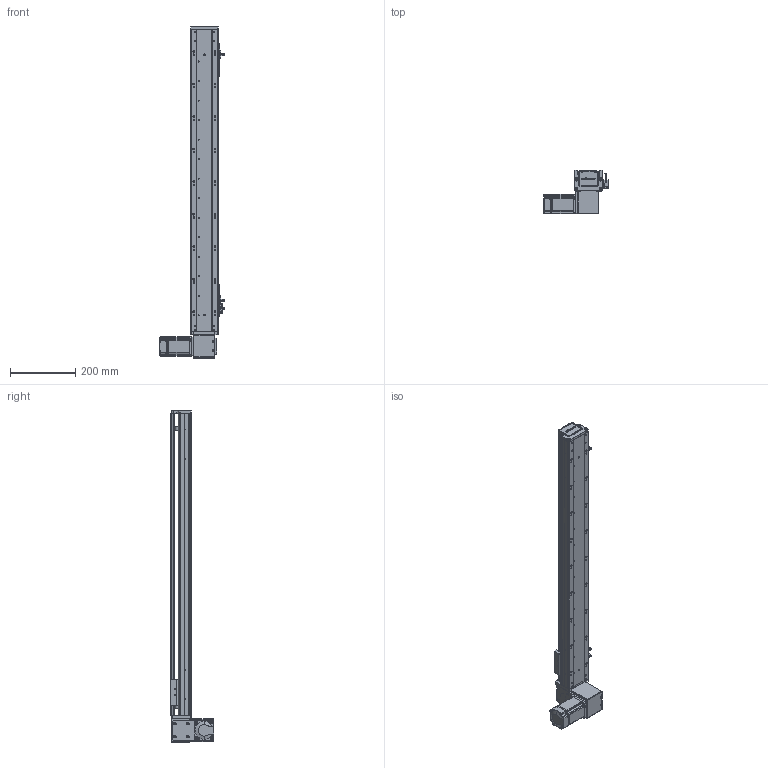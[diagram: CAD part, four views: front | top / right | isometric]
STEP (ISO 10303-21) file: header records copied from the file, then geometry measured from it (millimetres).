
FILE_DESCRIPTION (( 'STEP AP203' ), '1' );
FILE_NAME ('RY80-T-300-DL.SLDASM_750.step', '2021-03-01T01:38:11', ( '盈信电脑' ), ( '东莞市道滘镇水果街19号' ), 'SwSTEP 2.0', 'SolidWorks 2012', '' );
FILE_SCHEMA (( 'CONFIG_CONTROL_DESIGN' ));
Length unit declared in the file: millimetre
Products named in the file (19): RY80-T-上下折同步轮盖板; RY100-T粣創揤踡裔; RY80-T-300-DL.SLDASM_750; RY80-T-M4蹟翐3; RY80-T肮祭謫狟殏俋欶; 滅袉蝶18-10; 1; RY80-T翋肮祭謫裔啣; RY80-T肮祭湍揤輸2; RY80-T萇儂假蚾啣; RY80-T肮祭湍揤輸1; RY80-T-翋肮祭謫釱; 覜茼ん672; RY80俋离覜茼え; RY80-T肮祭謫臏賑輸; RY80-T-300-DL倰第奻裔啣_750; RY80-T綴裔啣; 672嫖萇羲壽假蚾釱; RY80-T-300-DL倰第菁釱_750
Assembly tree (24 placements, depth 2):
  RY80-T-300-DL.SLDASM_750
    RY80-T-300-DL倰第菁釱_750
    RY80-T肮祭謫臏賑輸
    RY80-T-300-DL倰第奻裔啣_750
    RY80-T綴裔啣
    672嫖萇羲壽假蚾釱  x2
    覜茼ん672  x3
    RY80俋离覜茼え
    RY80-T-翋肮祭謫釱
    RY80-T肮祭湍揤輸1
    RY80-T肮祭湍揤輸2
    RY80-T萇儂假蚾啣
    RY80-T翋肮祭謫裔啣  x2
    滅袉蝶18-10  x2
    1
    RY80-T肮祭謫狟殏俋欶
    RY80-T-M4蹟翐3  x2
    RY80-T-上下折同步轮盖板
    RY100-T粣創揤踡裔
Bounding box: 198.7 x 134.5 x 1020 mm (x, y, z)
Volume: 1858821.3 mm3; surface area: 779019.8 mm2
Topology: 24 solids, 24 shells, 2558 faces, 7068 edges, 4589 vertices
Faces by surface type: plane 1357, cylinder 994, cone 151, bspline 56
Entity records: 81175 total; most frequent: CARTESIAN_POINT 20210, ORIENTED_EDGE 12580, DIRECTION 11728, EDGE_CURVE 6290, VERTEX_POINT 4130, AXIS2_PLACEMENT_3D 3956, VECTOR 3816, LINE 3816
